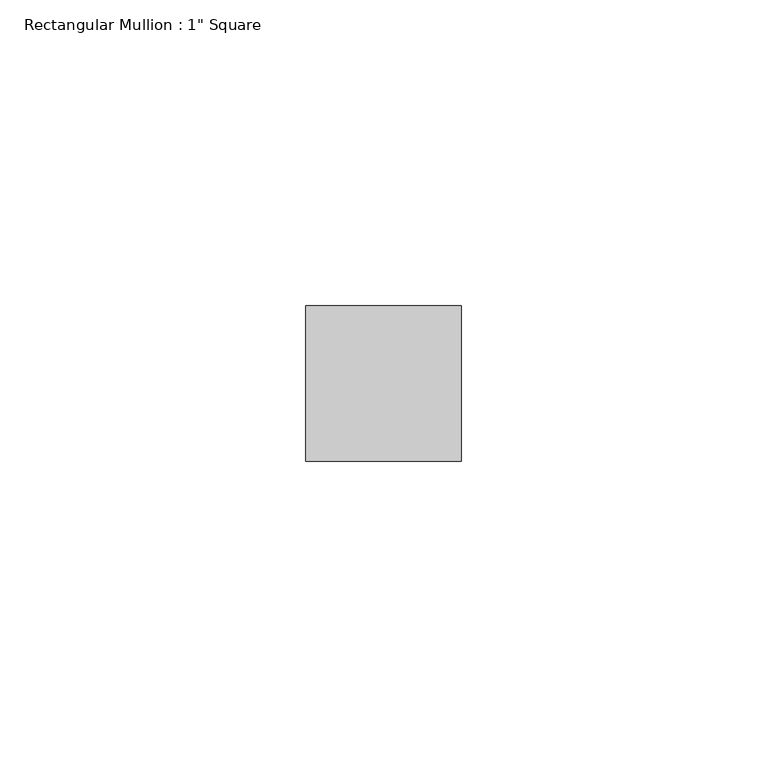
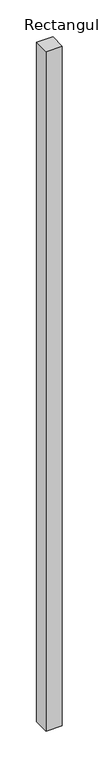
"""IFC4 building model written with IfcOpenShell, lengths in millimetres: member geometry."""

from ifc_helpers import new_model, si_unit, frame, origin, place, context, project, spatial, polyline, outline, extrude, source, transform, mapped, element, save


def member_562bdd2e(model_context):
    return source(origin(), model_context, "Body", "SweptSolid", [
        extrude(outline(polyline([(12.7, 12.7), (12.7, -12.7), (-12.7, -12.7), (-12.7, 12.7), (12.7, 12.7)])), frame((0.0, 0.0, -1124.4575505), z_axis=(0.0, 0.0, 1.0), x_axis=(1.0, 0.0, 0.0)), (0.0, 0.0, 1.0), 1124.4575505),
    ])


if __name__ == "__main__":
    model = new_model("IFC4")
    model_context = context("Model", 3, world=origin())
    ifc_project = project(units=[si_unit("LENGTHUNIT", "METRE", prefix="MILLI")], contexts=[model_context])
    site = spatial("IfcSite", under=ifc_project)
    building = spatial("IfcBuilding", under=site)
    placement = place(None, origin())
    member_shape = member_562bdd2e(model_context)
    element("IfcMember", 1, ObjectType="Rectangular Mullion : 1\" Square", at=placement, inside=building, context=model_context, shape_type="MappedRepresentation", body=[
        mapped(member_shape, transform((0.0, 0.0, 0.0), x_axis=(1.0, 0.0, 0.0), y_axis=(0.0, 1.0, 0.0), z_axis=(0.0, 0.0, 1.0))),
    ])
    save(model, "model.ifc")
